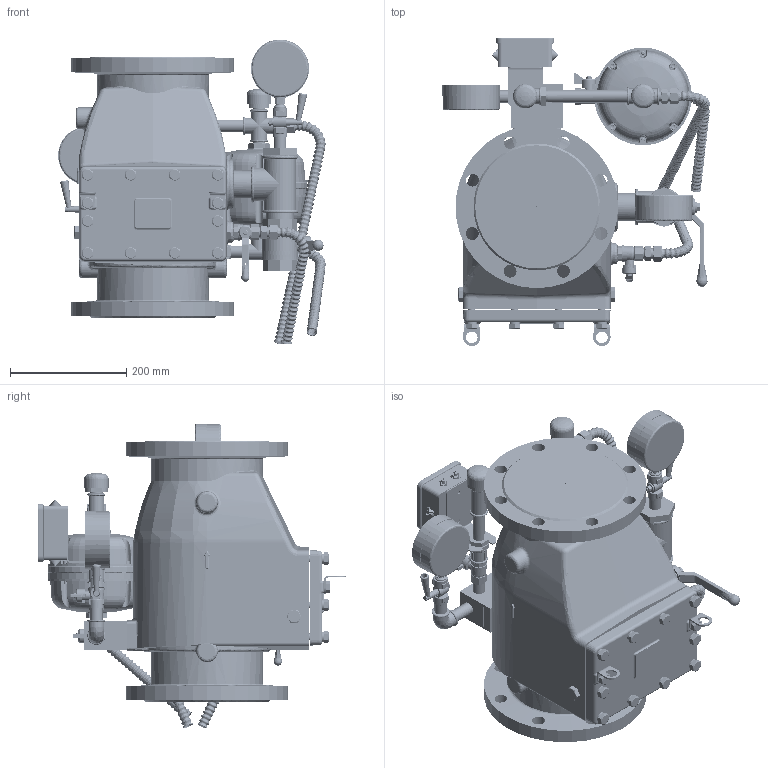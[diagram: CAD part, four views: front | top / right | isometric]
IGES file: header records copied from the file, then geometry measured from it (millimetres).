
Start section: File generated by T-FLEX CAD Version (null)
Global section: file name:                DN 150     _3D.igs; native system: T-FLEX CAD; date: 211013.153217; units: millimetre
Bounding box: 460.99 x 530.3 x 525.12 mm (x, y, z)
Volume: 28612775.9 mm3; surface area: 1715166.3 mm2
Topology: 60 solids, 88 shells, 4738 faces, 11393 edges, 6735 vertices
Faces by surface type: cylinder 1567, plane 1511, bspline 641, revolution 477, cone 423, sphere 119
